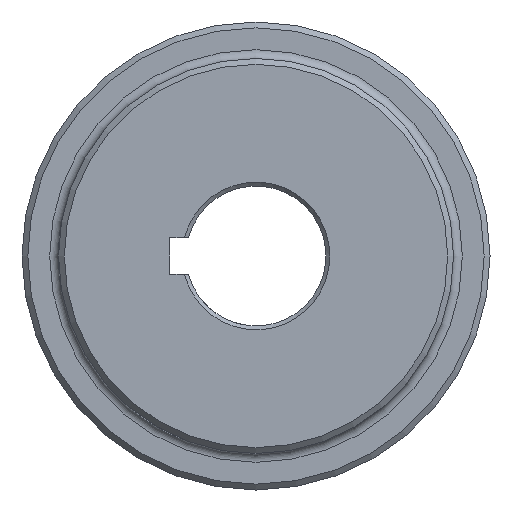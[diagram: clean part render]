
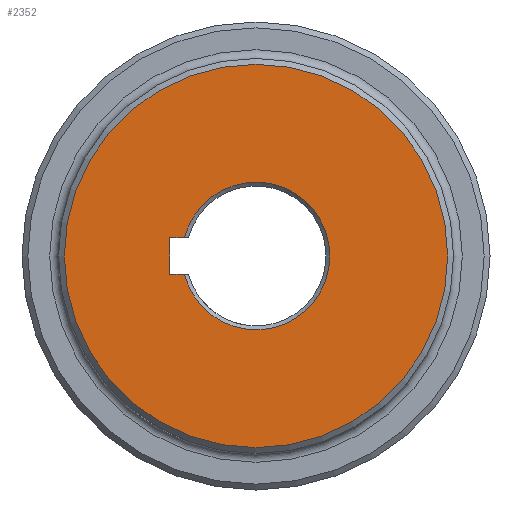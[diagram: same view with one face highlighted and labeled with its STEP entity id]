
A CAD part, left-side view. The second image highlights one B-rep face of the part: STEP entity #2352.
In plain terms, the highlighted planar face has unit normal (-1, 0, 0).
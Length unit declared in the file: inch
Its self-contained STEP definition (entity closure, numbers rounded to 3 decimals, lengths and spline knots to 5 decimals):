
#19 = AXIS2_PLACEMENT_3D ( 'NONE', #1557, #1903, #711 ) ;
#144 = DIRECTION ( 'NONE',  ( 1., 0., 0. ) ) ;
#218 = LINE ( 'NONE', #2203, #2211 ) ;
#285 = DIRECTION ( 'NONE',  ( 0., 1., 0. ) ) ;
#292 = VERTEX_POINT ( 'NONE', #730 ) ;
#323 = CARTESIAN_POINT ( 'NONE',  ( 0., 0., 0.1875 ) ) ;
#479 = CARTESIAN_POINT ( 'NONE',  ( 0., 0.73548, -0.1875 ) ) ;
#559 = EDGE_CURVE ( 'NONE', #970, #292, #1859, .T. ) ;
#561 = ORIENTED_EDGE ( 'NONE', *, *, #1214, .F. ) ;
#611 = AXIS2_PLACEMENT_3D ( 'NONE', #2467, #144, #993 ) ;
#696 = DIRECTION ( 'NONE',  ( 0., -1., 0. ) ) ;
#711 = DIRECTION ( 'NONE',  ( 0., 0., -1. ) ) ;
#730 = CARTESIAN_POINT ( 'NONE',  ( 0., 0.888, 0.1875 ) ) ;
#823 = EDGE_LOOP ( 'NONE', ( #2673, #1059, #561, #925 ) ) ;
#925 = ORIENTED_EDGE ( 'NONE', *, *, #1197, .F. ) ;
#970 = VERTEX_POINT ( 'NONE', #1239 ) ;
#993 = DIRECTION ( 'NONE',  ( 0., 0., -1. ) ) ;
#1059 = ORIENTED_EDGE ( 'NONE', *, *, #1895, .T. ) ;
#1197 = EDGE_CURVE ( 'NONE', #292, #1596, #2640, .T. ) ;
#1214 = EDGE_CURVE ( 'NONE', #1596, #1274, #218, .T. ) ;
#1239 = CARTESIAN_POINT ( 'NONE',  ( 0., 0.73548, 0.1875 ) ) ;
#1262 = CIRCLE ( 'NONE', #19, 1.97 ) ;
#1274 = VERTEX_POINT ( 'NONE', #479 ) ;
#1323 = CARTESIAN_POINT ( 'NONE',  ( 0., 0., 0. ) ) ;
#1391 = AXIS2_PLACEMENT_3D ( 'NONE', #1323, #2636, #2207 ) ;
#1418 = CARTESIAN_POINT ( 'NONE',  ( 0., 0.888, -0.1875 ) ) ;
#1487 = EDGE_LOOP ( 'NONE', ( #1634 ) ) ;
#1557 = CARTESIAN_POINT ( 'NONE',  ( 0., 0., 0. ) ) ;
#1589 = DIRECTION ( 'NONE',  ( 0., 0., -1. ) ) ;
#1596 = VERTEX_POINT ( 'NONE', #2224 ) ;
#1601 = EDGE_CURVE ( 'NONE', #2459, #2459, #1262, .T. ) ;
#1634 = ORIENTED_EDGE ( 'NONE', *, *, #1601, .T. ) ;
#1859 = LINE ( 'NONE', #323, #2756 ) ;
#1895 = EDGE_CURVE ( 'NONE', #970, #1274, #2639, .T. ) ;
#1903 = DIRECTION ( 'NONE',  ( -1., 0., 0. ) ) ;
#2022 = FACE_BOUND ( 'NONE', #823, .T. ) ;
#2030 = CARTESIAN_POINT ( 'NONE',  ( 0., 0., -1.97 ) ) ;
#2186 = VECTOR ( 'NONE', #1589, 39.37008 ) ;
#2203 = CARTESIAN_POINT ( 'NONE',  ( 0., 0., -0.1875 ) ) ;
#2207 = DIRECTION ( 'NONE',  ( 0., 0., -1. ) ) ;
#2211 = VECTOR ( 'NONE', #696, 39.37008 ) ;
#2224 = CARTESIAN_POINT ( 'NONE',  ( 0., 0.888, -0.1875 ) ) ;
#2344 = FACE_OUTER_BOUND ( 'NONE', #1487, .T. ) ;
#2352 = ADVANCED_FACE ( 'NONE', ( #2344, #2022 ), #2545, .F. ) ;
#2459 = VERTEX_POINT ( 'NONE', #2030 ) ;
#2467 = CARTESIAN_POINT ( 'NONE',  ( 0., 0., 0. ) ) ;
#2545 = PLANE ( 'NONE',  #1391 ) ;
#2636 = DIRECTION ( 'NONE',  ( 1., 0., 0. ) ) ;
#2639 = CIRCLE ( 'NONE', #611, 0.759 ) ;
#2640 = LINE ( 'NONE', #1418, #2186 ) ;
#2673 = ORIENTED_EDGE ( 'NONE', *, *, #559, .F. ) ;
#2756 = VECTOR ( 'NONE', #285, 39.37008 ) ;
